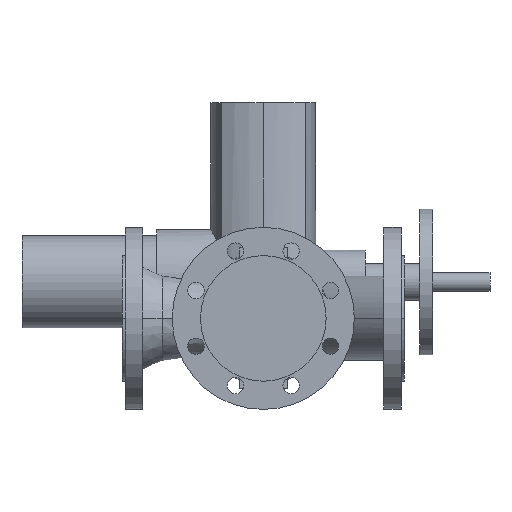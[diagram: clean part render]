
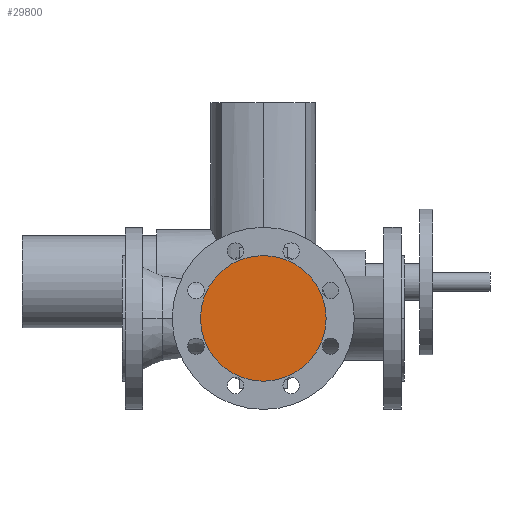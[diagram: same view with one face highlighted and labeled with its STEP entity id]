
A CAD part, front view. The second image highlights one B-rep face of the part: STEP entity #29800.
In plain terms, the highlighted planar face has unit normal (0, -1, 0).
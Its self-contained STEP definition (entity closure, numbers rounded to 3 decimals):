
#5070=CARTESIAN_POINT('',(224.,-130.,0.));
#5080=VERTEX_POINT('',#5070);
#5240=CARTESIAN_POINT('',(86.,-130.,0.));
#5250=VERTEX_POINT('',#5240);
#5280=CARTESIAN_POINT('',(155.,-130.,0.));
#5290=DIRECTION('',(0.,1.,0.));
#5300=DIRECTION('',(1.,0.,0.));
#5310=AXIS2_PLACEMENT_3D('',#5280,#5290,#5300);
#5320=CIRCLE('',#5310,69.);
#5330=EDGE_CURVE('',#5080,#5250,#5320,.T.);
#29700=CARTESIAN_POINT('',(189.5,-130.,0.));
#29710=DIRECTION('',(0.,-1.,0.));
#29720=DIRECTION('',(-1.,0.,0.));
#29730=AXIS2_PLACEMENT_3D('',#29700,#29710,#29720);
#29740=PLANE('',#29730);
#29750=EDGE_CURVE('',#5250,#5080,#5320,.T.);
#29760=ORIENTED_EDGE('',*,*,#29750,.F.);
#29770=ORIENTED_EDGE('',*,*,#5330,.F.);
#29780=EDGE_LOOP('',(#29770,#29760));
#29790=FACE_OUTER_BOUND('',#29780,.T.);
#29800=ADVANCED_FACE('',(#29790),#29740,.T.);
